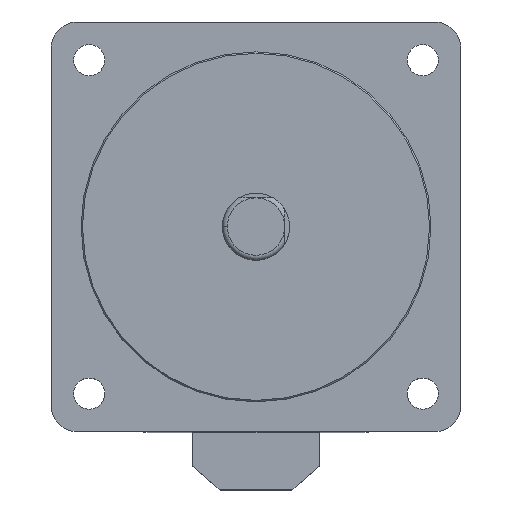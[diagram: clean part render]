
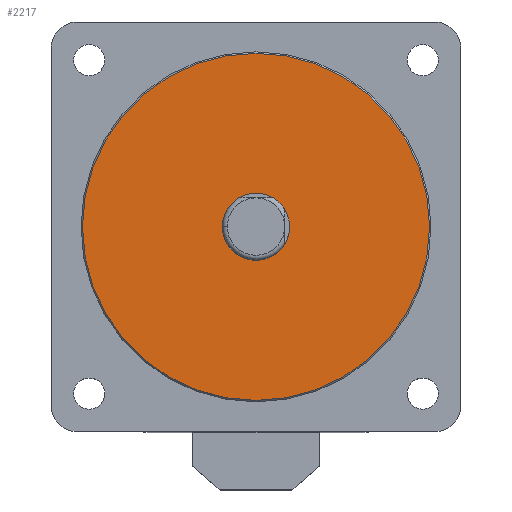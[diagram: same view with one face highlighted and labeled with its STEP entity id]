
A CAD part, top view. The second image highlights one B-rep face of the part: STEP entity #2217.
In plain terms, the highlighted planar face has unit normal (0, 0, 1).
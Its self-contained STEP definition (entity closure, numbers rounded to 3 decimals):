
#147 = AXIS2_PLACEMENT_3D ( 'NONE', #1629, #1388, #1144 ) ;
#235 = DIRECTION ( 'NONE',  ( -1., 0., 0. ) ) ;
#280 = EDGE_CURVE ( 'NONE', #1677, #438, #2292, .T. ) ;
#296 = CARTESIAN_POINT ( 'NONE',  ( 0., 0., 0. ) ) ;
#309 = CIRCLE ( 'NONE', #811, 7. ) ;
#319 = CIRCLE ( 'NONE', #1407, 36.213 ) ;
#431 = ORIENTED_EDGE ( 'NONE', *, *, #1184, .T. ) ;
#438 = VERTEX_POINT ( 'NONE', #2206 ) ;
#483 = DIRECTION ( 'NONE',  ( 0., 0., -1. ) ) ;
#546 = EDGE_CURVE ( 'NONE', #794, #2032, #855, .T. ) ;
#689 = DIRECTION ( 'NONE',  ( -1., 0., 0. ) ) ;
#786 = ORIENTED_EDGE ( 'NONE', *, *, #280, .T. ) ;
#794 = VERTEX_POINT ( 'NONE', #2019 ) ;
#811 = AXIS2_PLACEMENT_3D ( 'NONE', #2077, #1832, #1607 ) ;
#855 = CIRCLE ( 'NONE', #903, 7. ) ;
#903 = AXIS2_PLACEMENT_3D ( 'NONE', #296, #483, #235 ) ;
#930 = DIRECTION ( 'NONE',  ( 0., 0., 1. ) ) ;
#984 = ORIENTED_EDGE ( 'NONE', *, *, #546, .T. ) ;
#1034 = EDGE_LOOP ( 'NONE', ( #2237, #786 ) ) ;
#1144 = DIRECTION ( 'NONE',  ( -1., 0., 0. ) ) ;
#1184 = EDGE_CURVE ( 'NONE', #2032, #794, #309, .T. ) ;
#1192 = CARTESIAN_POINT ( 'NONE',  ( 36.213, 0., 0. ) ) ;
#1388 = DIRECTION ( 'NONE',  ( 0., 0., -1. ) ) ;
#1407 = AXIS2_PLACEMENT_3D ( 'NONE', #1591, #2245, #2002 ) ;
#1591 = CARTESIAN_POINT ( 'NONE',  ( 0., 0., 0. ) ) ;
#1607 = DIRECTION ( 'NONE',  ( -1., 0., 0. ) ) ;
#1629 = CARTESIAN_POINT ( 'NONE',  ( 0., 0., 0. ) ) ;
#1677 = VERTEX_POINT ( 'NONE', #1192 ) ;
#1695 = AXIS2_PLACEMENT_3D ( 'NONE', #1882, #930, #689 ) ;
#1832 = DIRECTION ( 'NONE',  ( 0., 0., -1. ) ) ;
#1856 = PLANE ( 'NONE',  #147 ) ;
#1882 = CARTESIAN_POINT ( 'NONE',  ( 0., 0., 0. ) ) ;
#1898 = EDGE_CURVE ( 'NONE', #438, #1677, #319, .T. ) ;
#1950 = EDGE_LOOP ( 'NONE', ( #431, #984 ) ) ;
#2002 = DIRECTION ( 'NONE',  ( -1., 0., 0. ) ) ;
#2012 = CARTESIAN_POINT ( 'NONE',  ( -7., 0., 0. ) ) ;
#2019 = CARTESIAN_POINT ( 'NONE',  ( 7., 0., 0. ) ) ;
#2032 = VERTEX_POINT ( 'NONE', #2012 ) ;
#2077 = CARTESIAN_POINT ( 'NONE',  ( 0., 0., 0. ) ) ;
#2196 = FACE_BOUND ( 'NONE', #1950, .T. ) ;
#2206 = CARTESIAN_POINT ( 'NONE',  ( -36.213, 0., 0. ) ) ;
#2217 = ADVANCED_FACE ( 'NONE', ( #2329, #2196 ), #1856, .F. ) ;
#2237 = ORIENTED_EDGE ( 'NONE', *, *, #1898, .T. ) ;
#2245 = DIRECTION ( 'NONE',  ( 0., 0., 1. ) ) ;
#2292 = CIRCLE ( 'NONE', #1695, 36.213 ) ;
#2329 = FACE_OUTER_BOUND ( 'NONE', #1034, .T. ) ;
